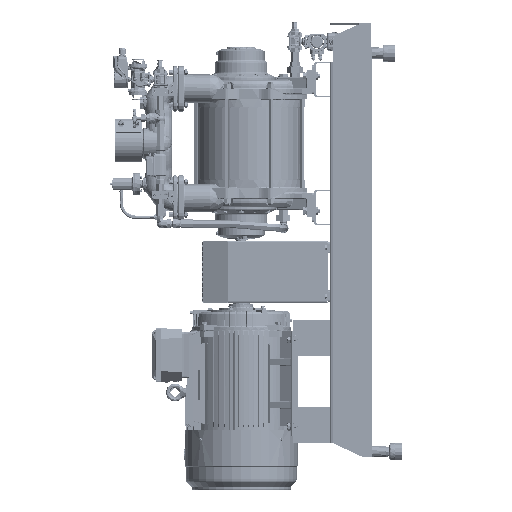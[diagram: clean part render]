
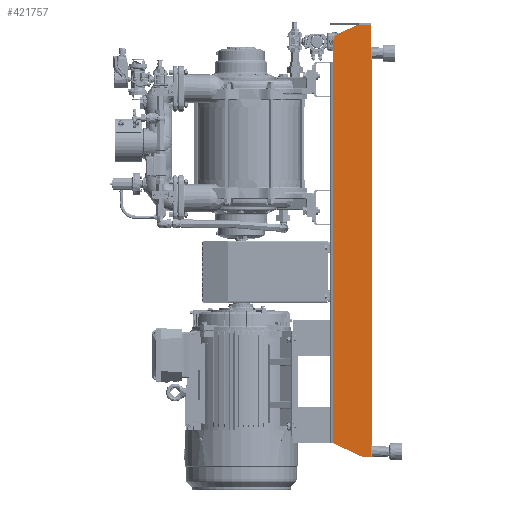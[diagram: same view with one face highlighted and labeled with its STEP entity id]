
A CAD part, left-side view. The second image highlights one B-rep face of the part: STEP entity #421757.
In plain terms, the highlighted planar face has unit normal (-1, 0, 0).
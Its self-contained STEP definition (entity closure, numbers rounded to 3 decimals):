
#28880=PLANE('',#450406);
#49873=FACE_OUTER_BOUND('',#74875,.T.);
#74875=EDGE_LOOP('',(#315969,#315970,#315971,#315972,#315973,#315974,#315975,
#315976,#315977,#315978,#315979,#315980));
#103398=LINE('',#804395,#132357);
#104071=LINE('',#806535,#133030);
#104072=LINE('',#806537,#133031);
#104073=LINE('',#806538,#133032);
#104074=LINE('',#806540,#133033);
#104075=LINE('',#806543,#133034);
#104076=LINE('',#806544,#133035);
#104077=LINE('',#806546,#133036);
#104078=LINE('',#806548,#133037);
#104079=LINE('',#806550,#133038);
#104080=LINE('',#806551,#133039);
#132357=VECTOR('',#515205,10.);
#133030=VECTOR('',#517032,10.);
#133031=VECTOR('',#517033,10.);
#133032=VECTOR('',#517034,10.);
#133033=VECTOR('',#517035,10.);
#133034=VECTOR('',#517038,10.);
#133035=VECTOR('',#517039,10.);
#133036=VECTOR('',#517040,10.);
#133037=VECTOR('',#517041,10.);
#133038=VECTOR('',#517042,10.);
#133039=VECTOR('',#517043,10.);
#153743=CIRCLE('',#450407,25.);
#180494=VERTEX_POINT('',#804392);
#180495=VERTEX_POINT('',#804394);
#181109=VERTEX_POINT('',#806512);
#181110=VERTEX_POINT('',#806519);
#181114=VERTEX_POINT('',#806533);
#181115=VERTEX_POINT('',#806534);
#181116=VERTEX_POINT('',#806536);
#181117=VERTEX_POINT('',#806539);
#181118=VERTEX_POINT('',#806541);
#181119=VERTEX_POINT('',#806545);
#181120=VERTEX_POINT('',#806547);
#181121=VERTEX_POINT('',#806549);
#228190=EDGE_CURVE('',#180494,#180495,#103398,.T.);
#229187=EDGE_CURVE('',#181114,#181115,#104071,.T.);
#229188=EDGE_CURVE('',#181114,#181116,#104072,.T.);
#229189=EDGE_CURVE('',#180495,#181116,#104073,.T.);
#229190=EDGE_CURVE('',#181117,#180494,#104074,.T.);
#229191=EDGE_CURVE('',#181118,#181117,#153743,.T.);
#229192=EDGE_CURVE('',#181109,#181118,#104075,.T.);
#229193=EDGE_CURVE('',#181109,#181110,#104076,.T.);
#229194=EDGE_CURVE('',#181119,#181110,#104077,.T.);
#229195=EDGE_CURVE('',#181120,#181119,#104078,.T.);
#229196=EDGE_CURVE('',#181120,#181121,#104079,.T.);
#229197=EDGE_CURVE('',#181121,#181115,#104080,.T.);
#315969=ORIENTED_EDGE('',*,*,#229187,.F.);
#315970=ORIENTED_EDGE('',*,*,#229188,.T.);
#315971=ORIENTED_EDGE('',*,*,#229189,.F.);
#315972=ORIENTED_EDGE('',*,*,#228190,.F.);
#315973=ORIENTED_EDGE('',*,*,#229190,.F.);
#315974=ORIENTED_EDGE('',*,*,#229191,.F.);
#315975=ORIENTED_EDGE('',*,*,#229192,.F.);
#315976=ORIENTED_EDGE('',*,*,#229193,.T.);
#315977=ORIENTED_EDGE('',*,*,#229194,.F.);
#315978=ORIENTED_EDGE('',*,*,#229195,.F.);
#315979=ORIENTED_EDGE('',*,*,#229196,.T.);
#315980=ORIENTED_EDGE('',*,*,#229197,.T.);
#421757=ADVANCED_FACE('',(#49873),#28880,.T.);
#450406=AXIS2_PLACEMENT_3D('',#806532,#517030,#517031);
#450407=AXIS2_PLACEMENT_3D('',#806542,#517036,#517037);
#515205=DIRECTION('',(0.,-1.,0.));
#517030=DIRECTION('center_axis',(-1.,0.,0.));
#517031=DIRECTION('ref_axis',(0.,0.,
-1.));
#517032=DIRECTION('',(0.,0.,-1.));
#517033=DIRECTION('',(0.,1.,0.));
#517034=DIRECTION('',(0.,0.,-1.));
#517035=DIRECTION('',(0.,-0.906,0.423));
#517036=DIRECTION('center_axis',(1.,0.,0.));
#517037=DIRECTION('ref_axis',(0.,0.843,0.537));
#517038=DIRECTION('',(0.,0.,1.));
#517039=DIRECTION('',(0.,0.,-1.));
#517040=DIRECTION('',(0.,0.906,0.423));
#517041=DIRECTION('',(0.,1.,0.));
#517042=DIRECTION('',(0.,0.,1.));
#517043=DIRECTION('',(0.,-1.,0.));
#804392=CARTESIAN_POINT('',(-254.,-3.804,728.25));
#804394=CARTESIAN_POINT('',(-254.,-49.,728.25));
#804395=CARTESIAN_POINT('',(-254.,-3.804,728.25));
#806512=CARTESIAN_POINT('',(-254.,83.,598.25));
#806519=CARTESIAN_POINT('',(-254.,83.,-738.75));
#806532=CARTESIAN_POINT('Origin',(-254.,348.586,-195.5));
#806533=CARTESIAN_POINT('',(-254.,-55.,604.25));
#806534=CARTESIAN_POINT('',(-254.,-55.,-744.75));
#806535=CARTESIAN_POINT('',(-254.,-55.,-989.25));
#806536=CARTESIAN_POINT('',(-254.,-49.,604.25));
#806537=CARTESIAN_POINT('',(-254.,146.793,604.25));
#806538=CARTESIAN_POINT('',(-254.,-49.,728.25));
#806539=CARTESIAN_POINT('',(-254.,68.565,694.504));
#806540=CARTESIAN_POINT('',(-254.,83.,687.773));
#806541=CARTESIAN_POINT('',(-254.,83.,671.846));
#806542=CARTESIAN_POINT('Origin',(-254.,58.,671.846));
#806543=CARTESIAN_POINT('',(-254.,83.,598.25));
#806544=CARTESIAN_POINT('',(-254.,83.,-195.5));
#806545=CARTESIAN_POINT('',(-254.,-24.225,-788.75));
#806546=CARTESIAN_POINT('',(-254.,-24.225,-788.75));
#806547=CARTESIAN_POINT('',(-254.,-49.,-788.75));
#806548=CARTESIAN_POINT('',(-254.,-55.,-788.75));
#806549=CARTESIAN_POINT('',(-254.,-49.,-744.75));
#806550=CARTESIAN_POINT('',(-254.,-49.,-495.875));
#806551=CARTESIAN_POINT('',(-254.,146.793,-744.75));
